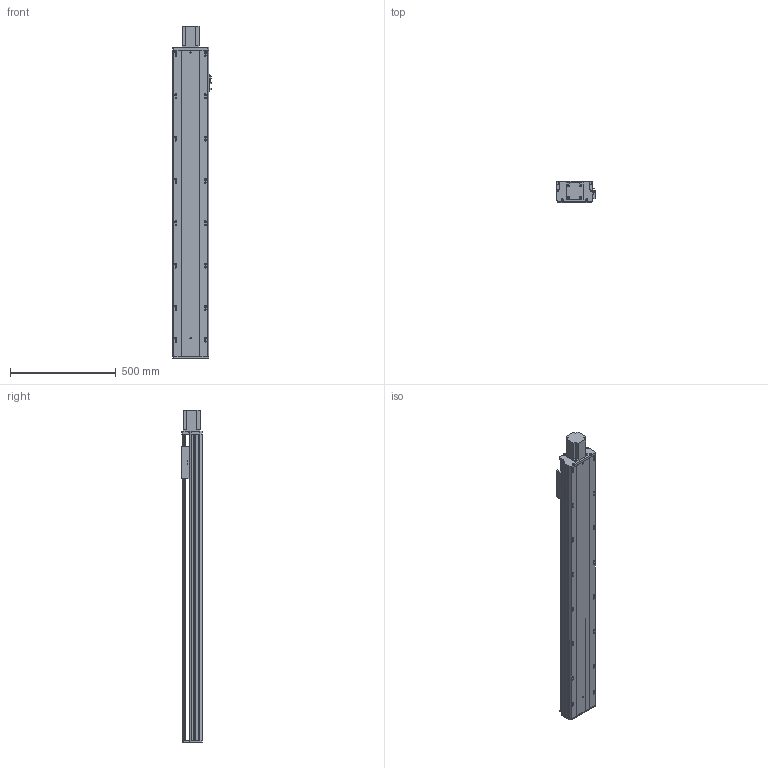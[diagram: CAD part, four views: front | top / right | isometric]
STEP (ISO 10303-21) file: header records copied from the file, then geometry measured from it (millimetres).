
FILE_DESCRIPTION (( 'STEP AP203' ), '1' );
FILE_NAME ('Y170-D10-S1200-BD-P750W.STEP', '2020-01-22T07:10:29', ( '微软用户' ), ( '微软中国' ), 'SwSTEP 2.0', 'SolidWorks 2017', '' );
FILE_SCHEMA (( 'CONFIG_CONTROL_DESIGN' ));
Length unit declared in the file: millimetre
Products named in the file (10): 170--掛极-BD; Y170-萇儂楊擘啣--; 135-盓傅釱-FK15; 侂狟750W; Y170耜裔--準---; Y170-陔遴奻裔-BD; Y170--雄赽釱-梓--; YD-Y100-135-新外置传感挡片(通用）; Y170-D10-S1200-BD-P750W; Y100-135俋离換覜ん
Assembly tree (11 placements, depth 2):
  Y170-D10-S1200-BD-P750W
    YD-Y100-135-新外置传感挡片(通用）
    Y100-135俋离換覜ん  x3
    170--掛极-BD
    Y170-萇儂楊擘啣--
    135-盓傅釱-FK15
    侂狟750W
    Y170耜裔--準---
    Y170-陔遴奻裔-BD
    Y170--雄赽釱-梓--
Bounding box: 183.5 x 97 x 1568.5 mm (x, y, z)
Volume: 6593828.7 mm3; surface area: 2252643.2 mm2
Topology: 11 solids, 11 shells, 840 faces, 2403 edges, 1592 vertices
Faces by surface type: cylinder 450, plane 388, torus 2
Entity records: 27551 total; most frequent: CARTESIAN_POINT 4995, DIRECTION 4585, ORIENTED_EDGE 4470, EDGE_CURVE 2235, AXIS2_PLACEMENT_3D 1654, VERTEX_POINT 1480, LINE 1277, VECTOR 1277
